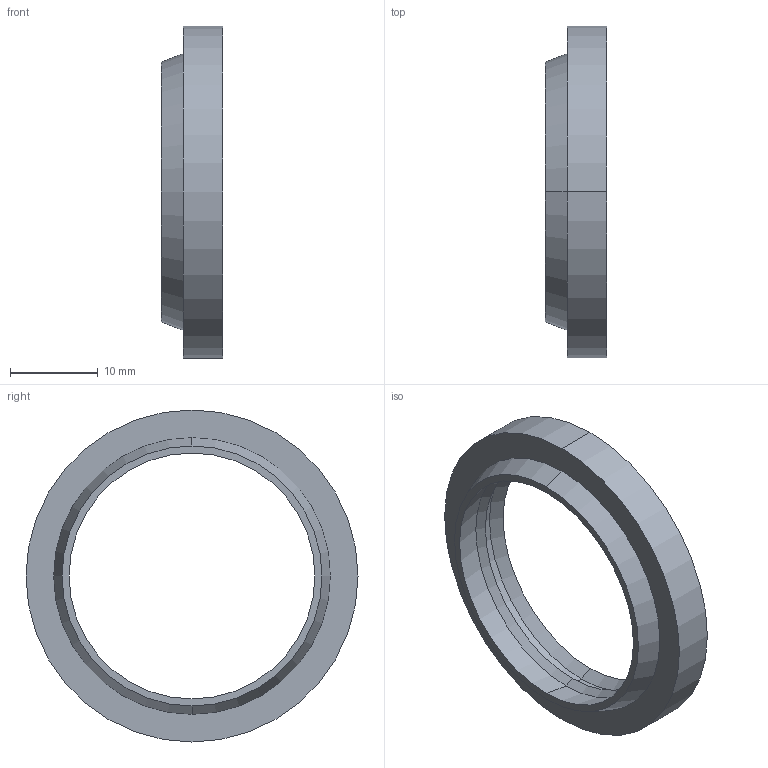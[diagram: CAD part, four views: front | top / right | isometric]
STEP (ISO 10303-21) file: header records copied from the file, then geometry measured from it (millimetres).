
FILE_DESCRIPTION (( 'STEP AP214' ), '1' );
FILE_NAME ('PAW01-28.STEP', '2011-03-11T11:57:36', ( '' ), ( '' ), 'SwSTEP 2.0', 'SolidWorks 2010', '' );
FILE_SCHEMA (( 'AUTOMOTIVE_DESIGN' ));
Length unit declared in the file: millimetre
Products named in the file (1): PAW01-28
Bounding box: 7 x 37.8 x 37.8 mm (x, y, z)
Volume: 2330.4 mm3; surface area: 2424.6 mm2
Topology: 1 solids, 1 shells, 17 faces, 34 edges, 20 vertices
Faces by surface type: cone 10, cylinder 4, plane 3
Entity records: 482 total; most frequent: DIRECTION 90, CARTESIAN_POINT 72, ORIENTED_EDGE 68, AXIS2_PLACEMENT_3D 38, EDGE_CURVE 34, CIRCLE 20, EDGE_LOOP 20, VERTEX_POINT 20
